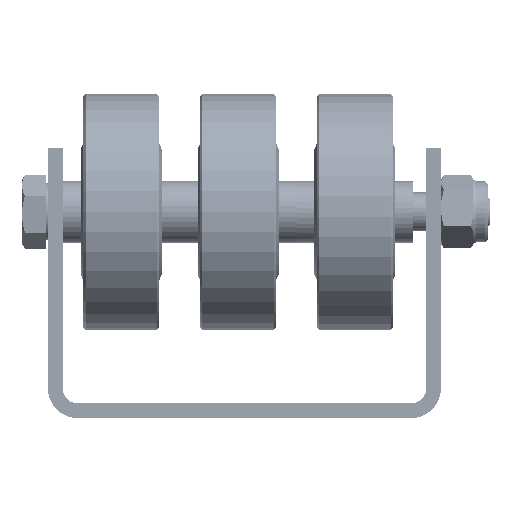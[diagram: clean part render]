
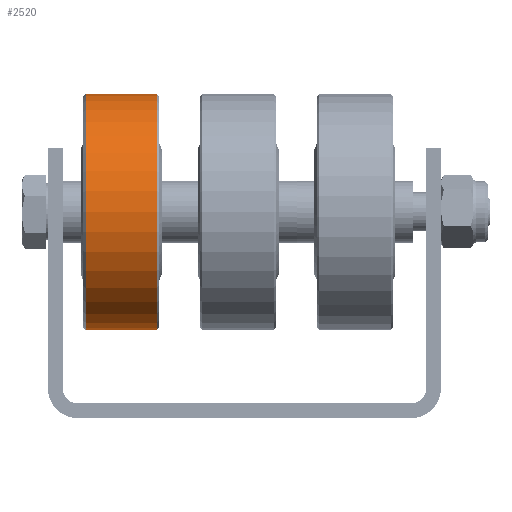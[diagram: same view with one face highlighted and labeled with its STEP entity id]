
A CAD part, front view. The second image highlights one B-rep face of the part: STEP entity #2520.
In plain terms, the highlighted cylindrical face has radius 24 mm (diameter 48 mm), a full revolution.
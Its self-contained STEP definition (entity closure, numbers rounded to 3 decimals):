
#2520 = ADVANCED_FACE( '', ( #4625, #4626 ), #4627, .T. );
#4625 = FACE_OUTER_BOUND( '', #7591, .T. );
#4626 = FACE_OUTER_BOUND( '', #7592, .T. );
#4627 = CYLINDRICAL_SURFACE( '', #7593, 24. );
#7591 = EDGE_LOOP( '', ( #10605 ) );
#7592 = EDGE_LOOP( '', ( #10606 ) );
#7593 = AXIS2_PLACEMENT_3D( '', #10607, #10608, #10609 );
#10605 = ORIENTED_EDGE( '', *, *, #14926, .T. );
#10606 = ORIENTED_EDGE( '', *, *, #14927, .T. );
#10607 = CARTESIAN_POINT( '', ( 0., -7.75, 0. ) );
#10608 = DIRECTION( '', ( 0., -1., 0. ) );
#10609 = DIRECTION( '', ( 0., 0., 1. ) );
#14926 = EDGE_CURVE( '', #16807, #16807, #16808, .F. );
#14927 = EDGE_CURVE( '', #16809, #16809, #16810, .T. );
#16807 = VERTEX_POINT( '', #19372 );
#16808 = CIRCLE( '', #19373, 24. );
#16809 = VERTEX_POINT( '', #19374 );
#16810 = CIRCLE( '', #19375, 24. );
#19372 = CARTESIAN_POINT( '', ( 0., 7.25, 24. ) );
#19373 = AXIS2_PLACEMENT_3D( '', #22560, #22561, #22562 );
#19374 = CARTESIAN_POINT( '', ( 0., -7.25, 24. ) );
#19375 = AXIS2_PLACEMENT_3D( '', #22563, #22564, #22565 );
#22560 = CARTESIAN_POINT( '', ( 0., 7.25, 0. ) );
#22561 = DIRECTION( '', ( 0., 1., 0. ) );
#22562 = DIRECTION( '', ( 0., 0., 1. ) );
#22563 = CARTESIAN_POINT( '', ( 0., -7.25, 0. ) );
#22564 = DIRECTION( '', ( 0., 1., 0. ) );
#22565 = DIRECTION( '', ( 0., 0., 1. ) );
